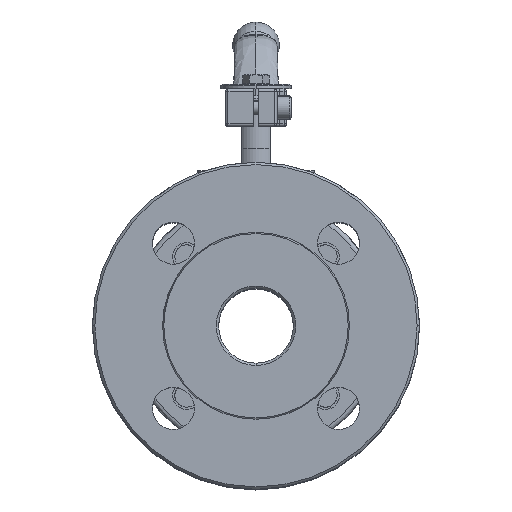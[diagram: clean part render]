
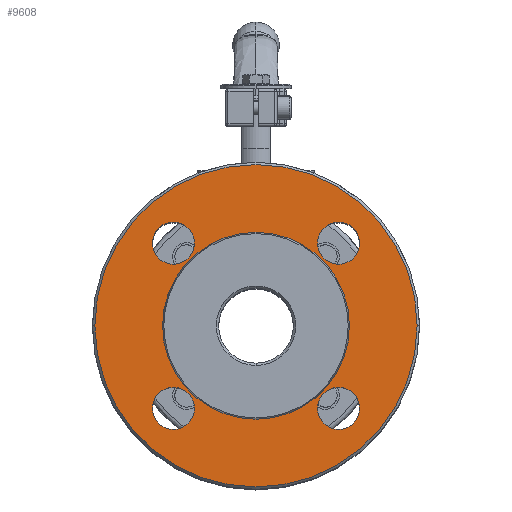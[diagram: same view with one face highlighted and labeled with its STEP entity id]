
A CAD part, top view. The second image highlights one B-rep face of the part: STEP entity #9608.
In plain terms, the highlighted planar face has unit normal (0, 0, 1) as drawn and (0, -1, 0) by its records, which use the part's own axes.
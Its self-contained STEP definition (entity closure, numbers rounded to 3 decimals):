
#93 = VERTEX_POINT ( 'NONE', #13023 ) ;
#295 = CARTESIAN_POINT ( 'NONE',  ( 0., -37.5, 0. ) ) ;
#514 = DIRECTION ( 'NONE',  ( 0., 0., 1. ) ) ;
#722 = EDGE_CURVE ( 'NONE', #5100, #1953, #24106, .T. ) ;
#934 = CARTESIAN_POINT ( 'NONE',  ( -35.355, -37.5, 44.355 ) ) ;
#1273 = CARTESIAN_POINT ( 'NONE',  ( 35.355, -37.5, -35.355 ) ) ;
#1310 = DIRECTION ( 'NONE',  ( 0., 1., 0. ) ) ;
#1582 = VERTEX_POINT ( 'NONE', #24315 ) ;
#1763 = FACE_BOUND ( 'NONE', #29165, .T. ) ;
#1953 = VERTEX_POINT ( 'NONE', #19317 ) ;
#2042 = VERTEX_POINT ( 'NONE', #7562 ) ;
#2049 = CIRCLE ( 'NONE', #30902, 69. ) ;
#2351 = EDGE_LOOP ( 'NONE', ( #26072, #8394 ) ) ;
#2508 = FACE_BOUND ( 'NONE', #25310, .T. ) ;
#2857 = DIRECTION ( 'NONE',  ( 0., 1., 0. ) ) ;
#2893 = CARTESIAN_POINT ( 'NONE',  ( -35.355, -37.5, -35.355 ) ) ;
#3129 = EDGE_LOOP ( 'NONE', ( #14207, #11603 ) ) ;
#3282 = CARTESIAN_POINT ( 'NONE',  ( 0., -37.5, 0. ) ) ;
#3707 = DIRECTION ( 'NONE',  ( 0., 0., 1. ) ) ;
#4038 = AXIS2_PLACEMENT_3D ( 'NONE', #2893, #19982, #5351 ) ;
#4283 = CARTESIAN_POINT ( 'NONE',  ( 35.355, -37.5, -26.355 ) ) ;
#4913 = DIRECTION ( 'NONE',  ( 0., 1., 0. ) ) ;
#4953 = ORIENTED_EDGE ( 'NONE', *, *, #13256, .T. ) ;
#5099 = CIRCLE ( 'NONE', #29258, 40. ) ;
#5100 = VERTEX_POINT ( 'NONE', #22047 ) ;
#5319 = CARTESIAN_POINT ( 'NONE',  ( -35.355, -37.5, 26.355 ) ) ;
#5351 = DIRECTION ( 'NONE',  ( -1., 0., 0. ) ) ;
#5478 = AXIS2_PLACEMENT_3D ( 'NONE', #7183, #24238, #9638 ) ;
#5646 = EDGE_LOOP ( 'NONE', ( #16458, #14999 ) ) ;
#5700 = DIRECTION ( 'NONE',  ( 0., -1., 0. ) ) ;
#5749 = DIRECTION ( 'NONE',  ( -1., 0., 0. ) ) ;
#6019 = VERTEX_POINT ( 'NONE', #934 ) ;
#6997 = AXIS2_PLACEMENT_3D ( 'NONE', #25085, #5700, #22740 ) ;
#7183 = CARTESIAN_POINT ( 'NONE',  ( -35.355, -37.5, 35.355 ) ) ;
#7413 = CARTESIAN_POINT ( 'NONE',  ( -35.355, -37.5, 35.355 ) ) ;
#7562 = CARTESIAN_POINT ( 'NONE',  ( -44.355, -37.5, -35.355 ) ) ;
#8251 = FACE_BOUND ( 'NONE', #26007, .T. ) ;
#8317 = EDGE_CURVE ( 'NONE', #14184, #23767, #20123, .T. ) ;
#8394 = ORIENTED_EDGE ( 'NONE', *, *, #17516, .T. ) ;
#9385 = AXIS2_PLACEMENT_3D ( 'NONE', #29660, #15108, #514 ) ;
#9409 = ORIENTED_EDGE ( 'NONE', *, *, #8317, .T. ) ;
#9554 = AXIS2_PLACEMENT_3D ( 'NONE', #3282, #20367, #5749 ) ;
#9608 = ADVANCED_FACE ( 'NONE', ( #14715, #2508, #21232, #27652, #8251, #1763 ), #20324, .T. ) ;
#9638 = DIRECTION ( 'NONE',  ( 0., 0., 1. ) ) ;
#9853 = DIRECTION ( 'NONE',  ( 0., 0., 1. ) ) ;
#10605 = EDGE_CURVE ( 'NONE', #14463, #6019, #21209, .T. ) ;
#11002 = CIRCLE ( 'NONE', #5478, 9. ) ;
#11428 = VERTEX_POINT ( 'NONE', #20280 ) ;
#11603 = ORIENTED_EDGE ( 'NONE', *, *, #10605, .T. ) ;
#12434 = DIRECTION ( 'NONE',  ( 0., 0., 1. ) ) ;
#12781 = ORIENTED_EDGE ( 'NONE', *, *, #722, .T. ) ;
#13023 = CARTESIAN_POINT ( 'NONE',  ( -69., -37.5, 0. ) ) ;
#13073 = DIRECTION ( 'NONE',  ( 0., -1., 0. ) ) ;
#13212 = ORIENTED_EDGE ( 'NONE', *, *, #30181, .T. ) ;
#13256 = EDGE_CURVE ( 'NONE', #1953, #5100, #5099, .T. ) ;
#13547 = CARTESIAN_POINT ( 'NONE',  ( 0., -37.5, 0. ) ) ;
#14184 = VERTEX_POINT ( 'NONE', #26230 ) ;
#14207 = ORIENTED_EDGE ( 'NONE', *, *, #19326, .T. ) ;
#14463 = VERTEX_POINT ( 'NONE', #5319 ) ;
#14715 = FACE_OUTER_BOUND ( 'NONE', #2351, .T. ) ;
#14999 = ORIENTED_EDGE ( 'NONE', *, *, #31342, .T. ) ;
#15108 = DIRECTION ( 'NONE',  ( 0., 1., 0. ) ) ;
#15910 = CARTESIAN_POINT ( 'NONE',  ( -35.355, -37.5, -35.355 ) ) ;
#16004 = DIRECTION ( 'NONE',  ( 0., 0., 1. ) ) ;
#16458 = ORIENTED_EDGE ( 'NONE', *, *, #17355, .T. ) ;
#16959 = AXIS2_PLACEMENT_3D ( 'NONE', #19549, #4913, #21981 ) ;
#17355 = EDGE_CURVE ( 'NONE', #19137, #21988, #19105, .T. ) ;
#17496 = CARTESIAN_POINT ( 'NONE',  ( 35.355, -37.5, 26.355 ) ) ;
#17497 = CARTESIAN_POINT ( 'NONE',  ( 35.355, -37.5, 35.355 ) ) ;
#17516 = EDGE_CURVE ( 'NONE', #1582, #93, #23255, .T. ) ;
#18351 = DIRECTION ( 'NONE',  ( 0., 1., 0. ) ) ;
#18393 = DIRECTION ( 'NONE',  ( -1., 0., 0. ) ) ;
#18751 = CARTESIAN_POINT ( 'NONE',  ( 35.355, -37.5, 44.355 ) ) ;
#19105 = CIRCLE ( 'NONE', #31355, 9. ) ;
#19137 = VERTEX_POINT ( 'NONE', #18751 ) ;
#19317 = CARTESIAN_POINT ( 'NONE',  ( 0., -37.5, 40. ) ) ;
#19326 = EDGE_CURVE ( 'NONE', #6019, #14463, #11002, .T. ) ;
#19334 = CIRCLE ( 'NONE', #9385, 9. ) ;
#19549 = CARTESIAN_POINT ( 'NONE',  ( 35.355, -37.5, 35.355 ) ) ;
#19942 = DIRECTION ( 'NONE',  ( 0., 0., 1. ) ) ;
#19982 = DIRECTION ( 'NONE',  ( 0., 1., 0. ) ) ;
#20123 = CIRCLE ( 'NONE', #29002, 9. ) ;
#20280 = CARTESIAN_POINT ( 'NONE',  ( -26.355, -37.5, -35.355 ) ) ;
#20324 = PLANE ( 'NONE',  #6997 ) ;
#20367 = DIRECTION ( 'NONE',  ( 0., -1., 0. ) ) ;
#20510 = AXIS2_PLACEMENT_3D ( 'NONE', #7413, #24450, #9853 ) ;
#21209 = CIRCLE ( 'NONE', #20510, 9. ) ;
#21232 = FACE_BOUND ( 'NONE', #5646, .T. ) ;
#21905 = ORIENTED_EDGE ( 'NONE', *, *, #29936, .T. ) ;
#21981 = DIRECTION ( 'NONE',  ( 0., 0., 1. ) ) ;
#21988 = VERTEX_POINT ( 'NONE', #17496 ) ;
#22047 = CARTESIAN_POINT ( 'NONE',  ( 0., -37.5, -40. ) ) ;
#22740 = DIRECTION ( 'NONE',  ( 0., 0., -1. ) ) ;
#23255 = CIRCLE ( 'NONE', #9554, 69. ) ;
#23647 = AXIS2_PLACEMENT_3D ( 'NONE', #15910, #1310, #18393 ) ;
#23767 = VERTEX_POINT ( 'NONE', #4283 ) ;
#24106 = CIRCLE ( 'NONE', #30381, 40. ) ;
#24238 = DIRECTION ( 'NONE',  ( 0., 1., 0. ) ) ;
#24315 = CARTESIAN_POINT ( 'NONE',  ( 69., -37.5, 0. ) ) ;
#24450 = DIRECTION ( 'NONE',  ( 0., 1., 0. ) ) ;
#25085 = CARTESIAN_POINT ( 'NONE',  ( 0., -37.5, -55. ) ) ;
#25310 = EDGE_LOOP ( 'NONE', ( #4953, #12781 ) ) ;
#25872 = EDGE_CURVE ( 'NONE', #93, #1582, #2049, .T. ) ;
#26007 = EDGE_LOOP ( 'NONE', ( #21905, #13212 ) ) ;
#26072 = ORIENTED_EDGE ( 'NONE', *, *, #25872, .T. ) ;
#26230 = CARTESIAN_POINT ( 'NONE',  ( 35.355, -37.5, -44.355 ) ) ;
#27649 = CARTESIAN_POINT ( 'NONE',  ( 0., -37.5, 0. ) ) ;
#27652 = FACE_BOUND ( 'NONE', #3129, .T. ) ;
#27682 = CIRCLE ( 'NONE', #23647, 9. ) ;
#28600 = ORIENTED_EDGE ( 'NONE', *, *, #30746, .T. ) ;
#29002 = AXIS2_PLACEMENT_3D ( 'NONE', #1273, #18351, #3707 ) ;
#29165 = EDGE_LOOP ( 'NONE', ( #28600, #9409 ) ) ;
#29258 = AXIS2_PLACEMENT_3D ( 'NONE', #13547, #30567, #16004 ) ;
#29448 = DIRECTION ( 'NONE',  ( 0., 1., 0. ) ) ;
#29544 = CIRCLE ( 'NONE', #16959, 9. ) ;
#29660 = CARTESIAN_POINT ( 'NONE',  ( 35.355, -37.5, -35.355 ) ) ;
#29936 = EDGE_CURVE ( 'NONE', #2042, #11428, #29964, .T. ) ;
#29964 = CIRCLE ( 'NONE', #4038, 9. ) ;
#30083 = DIRECTION ( 'NONE',  ( -1., 0., 0. ) ) ;
#30181 = EDGE_CURVE ( 'NONE', #11428, #2042, #27682, .T. ) ;
#30381 = AXIS2_PLACEMENT_3D ( 'NONE', #295, #29448, #12434 ) ;
#30567 = DIRECTION ( 'NONE',  ( 0., 1., 0. ) ) ;
#30746 = EDGE_CURVE ( 'NONE', #23767, #14184, #19334, .T. ) ;
#30902 = AXIS2_PLACEMENT_3D ( 'NONE', #27649, #13073, #30083 ) ;
#31342 = EDGE_CURVE ( 'NONE', #21988, #19137, #29544, .T. ) ;
#31355 = AXIS2_PLACEMENT_3D ( 'NONE', #17497, #2857, #19942 ) ;
